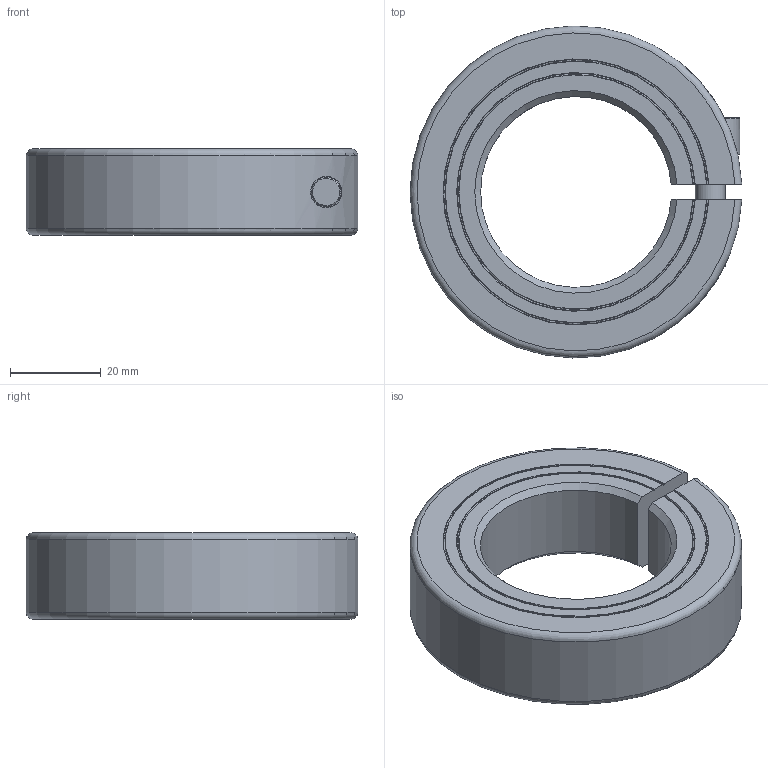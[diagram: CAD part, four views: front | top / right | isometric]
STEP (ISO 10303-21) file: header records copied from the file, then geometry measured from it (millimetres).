
FILE_DESCRIPTION((''),'2;1');
FILE_NAME('MCL-42-F','2016-09-08T',('SYSTEM'),(''),'PRO/ENGINEER BY PARAMETRIC TECHNOLOGY CORPORATION, 2015110','PRO/ENGINEER BY PARAMETRIC TECHNOLOGY CORPORATION, 2015110','');
FILE_SCHEMA(('AUTOMOTIVE_DESIGN { 1 0 10303 214 1 1 1 1 }'));
Length unit declared in the file: inch
Products named in the file (1): MCL-42-F
Bounding box: 72.97 x 72.98 x 19 mm (x, y, z)
Volume: 50478.3 mm3; surface area: 14230 mm2
Topology: 1 solids, 1 shells, 43 faces, 111 edges, 74 vertices
Faces by surface type: plane 18, cylinder 11, cone 10, torus 4
Entity records: 1813 total; most frequent: CARTESIAN_POINT 392, ORIENTED_EDGE 222, DIRECTION 217, EDGE_CURVE 111, AXIS2_PLACEMENT_3D 86, VERTEX_POINT 74, EDGE_LOOP 49, VECTOR 45
